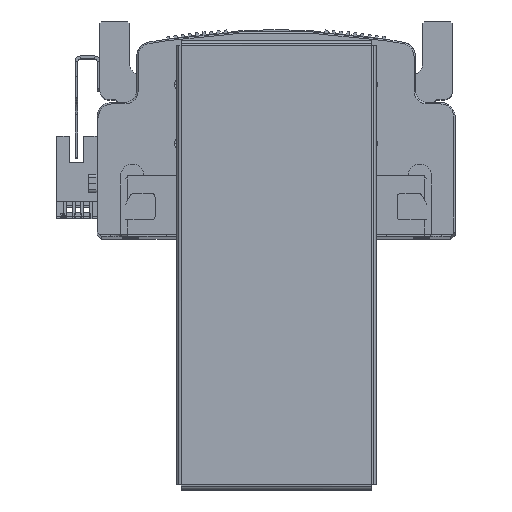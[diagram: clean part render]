
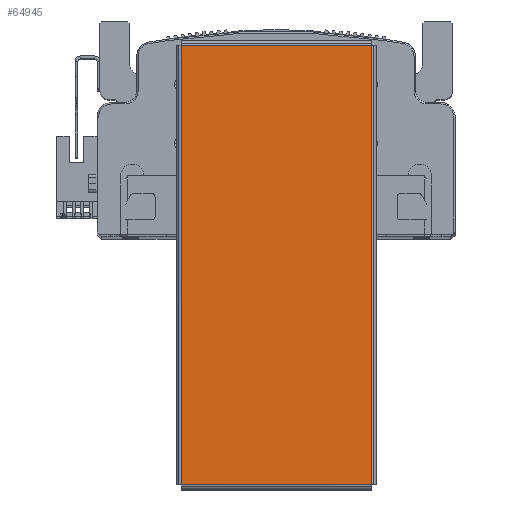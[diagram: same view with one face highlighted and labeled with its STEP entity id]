
A CAD part, top view. The second image highlights one B-rep face of the part: STEP entity #64945.
In plain terms, the highlighted planar face has unit normal (0, 0, 1) as drawn and (0, 0, -1) by its records, which use the part's own axes.
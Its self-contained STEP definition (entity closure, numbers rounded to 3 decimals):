
#3240 = VERTEX_POINT ( 'NONE', #9530 ) ;
#3247 = VERTEX_POINT ( 'NONE', #9554 ) ;
#3272 = VERTEX_POINT ( 'NONE', #9570 ) ;
#3324 = VERTEX_POINT ( 'NONE', #7529 ) ;
#5247 = CARTESIAN_POINT ( 'NONE',  ( -74.793, 32.363, -1. ) ) ;
#5248 = DIRECTION ( 'NONE',  ( 1., 0., 0. ) ) ;
#5260 = DIRECTION ( 'NONE',  ( 0., 1., 0. ) ) ;
#5276 = CARTESIAN_POINT ( 'NONE',  ( -74.763, -32.393, -1. ) ) ;
#5666 = DIRECTION ( 'NONE',  ( 0., -1., 0. ) ) ;
#5685 = CARTESIAN_POINT ( 'NONE',  ( 74.763, 32.393, -1. ) ) ;
#5762 = CARTESIAN_POINT ( 'NONE',  ( 74.793, -32.363, -1. ) ) ;
#5765 = DIRECTION ( 'NONE',  ( -1., 0., 0. ) ) ;
#5902 = LINE ( 'NONE', #5685, #5922 ) ;
#5904 = VECTOR ( 'NONE', #5248, 1000. ) ;
#5906 = LINE ( 'NONE', #5762, #5940 ) ;
#5912 = VECTOR ( 'NONE', #5260, 1000. ) ;
#5915 = LINE ( 'NONE', #5276, #5912 ) ;
#5922 = VECTOR ( 'NONE', #5666, 1000. ) ;
#5923 = LINE ( 'NONE', #5247, #5904 ) ;
#5940 = VECTOR ( 'NONE', #5765, 1000. ) ;
#6709 = FACE_OUTER_BOUND ( 'NONE', #41741, .T. ) ;
#7529 = CARTESIAN_POINT ( 'NONE',  ( 74.763, -32.363, -1. ) ) ;
#9530 = CARTESIAN_POINT ( 'NONE',  ( -74.763, 32.363, -1. ) ) ;
#9554 = CARTESIAN_POINT ( 'NONE',  ( 74.763, 32.363, -1. ) ) ;
#9570 = CARTESIAN_POINT ( 'NONE',  ( -74.763, -32.363, -1. ) ) ;
#32587 = ORIENTED_EDGE ( 'NONE', *, *, #50752, .T. ) ;
#32631 = ORIENTED_EDGE ( 'NONE', *, *, #50784, .T. ) ;
#32638 = ORIENTED_EDGE ( 'NONE', *, *, #50772, .T. ) ;
#32641 = ORIENTED_EDGE ( 'NONE', *, *, #50790, .T. ) ;
#33601 = AXIS2_PLACEMENT_3D ( 'NONE', #35551, #35568, #35579 ) ;
#35550 = PLANE ( 'NONE',  #33601 ) ;
#35551 = CARTESIAN_POINT ( 'NONE',  ( 0., 0., -1. ) ) ;
#35568 = DIRECTION ( 'NONE',  ( 0., 0., 1. ) ) ;
#35579 = DIRECTION ( 'NONE',  ( 1., 0., 0. ) ) ;
#41741 = EDGE_LOOP ( 'NONE', ( #32587, #32638, #32641, #32631 ) ) ;
#50752 = EDGE_CURVE ( 'NONE', #3247, #3324, #5902, .T. ) ;
#50772 = EDGE_CURVE ( 'NONE', #3324, #3272, #5906, .T. ) ;
#50784 = EDGE_CURVE ( 'NONE', #3240, #3247, #5923, .T. ) ;
#50790 = EDGE_CURVE ( 'NONE', #3272, #3240, #5915, .T. ) ;
#64945 = ADVANCED_FACE ( 'NONE', ( #6709 ), #35550, .F. ) ;
